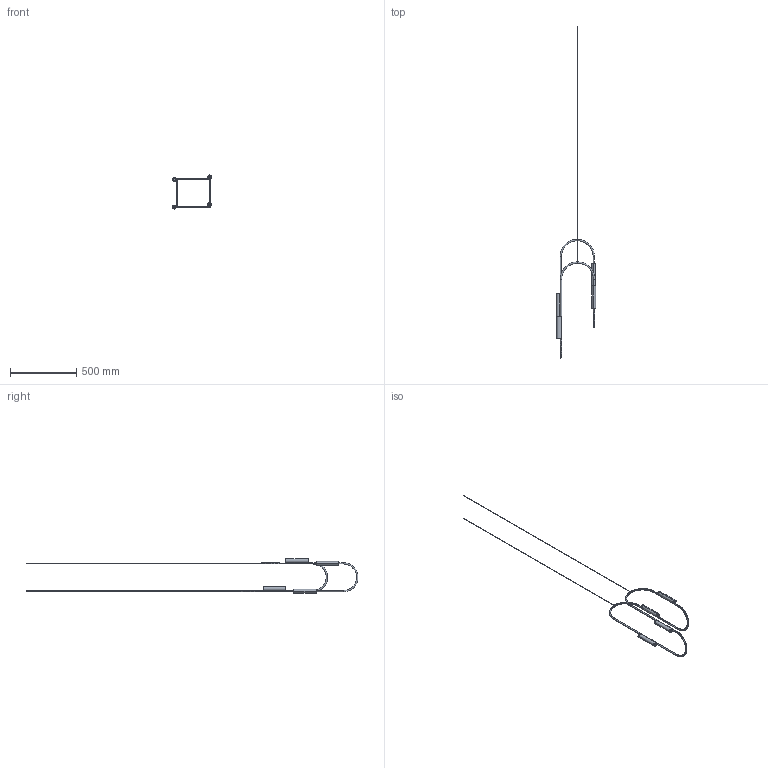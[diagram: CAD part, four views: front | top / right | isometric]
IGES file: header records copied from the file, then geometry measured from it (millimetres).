
Start section: SolidWorks IGES file using analytic representation for surfaces
Global section: file name: C:\Users\Joandita\Dropbox\Rakumba Industrial Design\PRODUCT\2 DEVELOPMENT\POP\CAD\LightWeight CAD\Pop - Pendant Loop A.IGS; native system: SolidWorks 2017; preprocessor: SolidWorks 2017; author: Joandita; date: 240408.154931; units: millimetre
Bounding box: 296.91 x 2504.64 x 256.74 mm (x, y, z)
Surface area: 361545.9 mm2 (no closed solid volume)
Topology: 0 solids, 0 shells, 414 faces, 6070 edges, 6070 vertices
Faces by surface type: bspline 216, revolution 198
